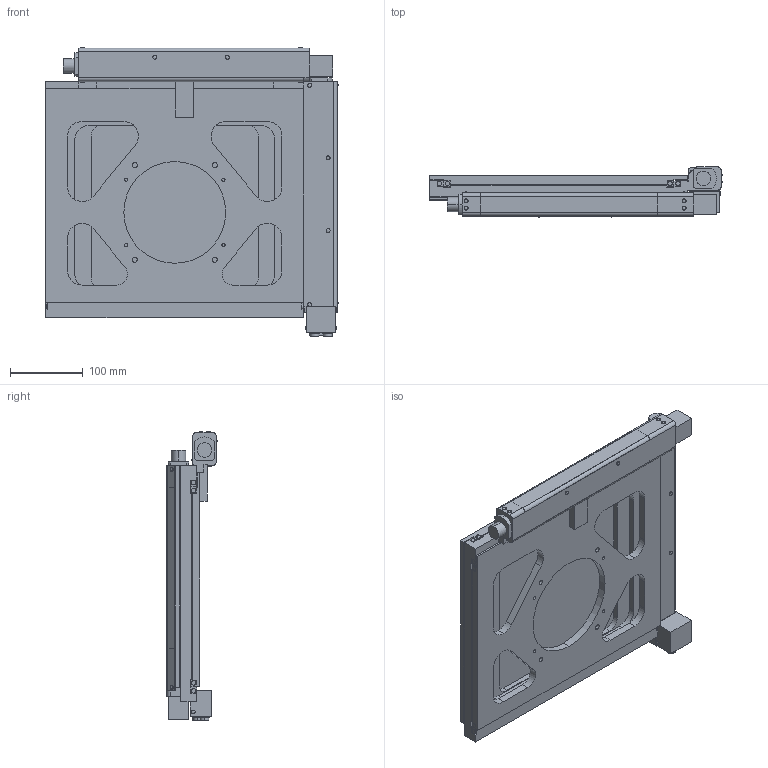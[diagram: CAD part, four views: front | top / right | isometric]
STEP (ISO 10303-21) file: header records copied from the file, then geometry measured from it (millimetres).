
FILE_DESCRIPTION (( 'STEP AP203' ), '1' );
FILE_NAME ('MSS-200D.STEP', '2023-04-21T07:27:15', ( '' ), ( '' ), 'SwSTEP 2.0', 'SolidWorks 2021', '' );
FILE_SCHEMA (( 'CONFIG_CONTROL_DESIGN' ));
Length unit declared in the file: millimetre
Products named in the file (5): MSS-200D-1; MSS-200D-3; MSS-200D; MSS-200D-4; MSS-200D-2
Assembly tree (4 placements, depth 2):
  MSS-200D
    MSS-200D-1
    MSS-200D-2
    MSS-200D-3
    MSS-200D-4
Bounding box: 402.44 x 69.44 x 398.74 mm (x, y, z)
Volume: 2587621.6 mm3; surface area: 772384.4 mm2
Topology: 4 solids, 4 shells, 477 faces, 1197 edges, 790 vertices
Faces by surface type: plane 266, cylinder 188, bspline 23
Entity records: 19402 total; most frequent: CARTESIAN_POINT 7198, DIRECTION 2411, ORIENTED_EDGE 2394, EDGE_CURVE 1197, VECTOR 805, LINE 805, AXIS2_PLACEMENT_3D 803, VERTEX_POINT 790
